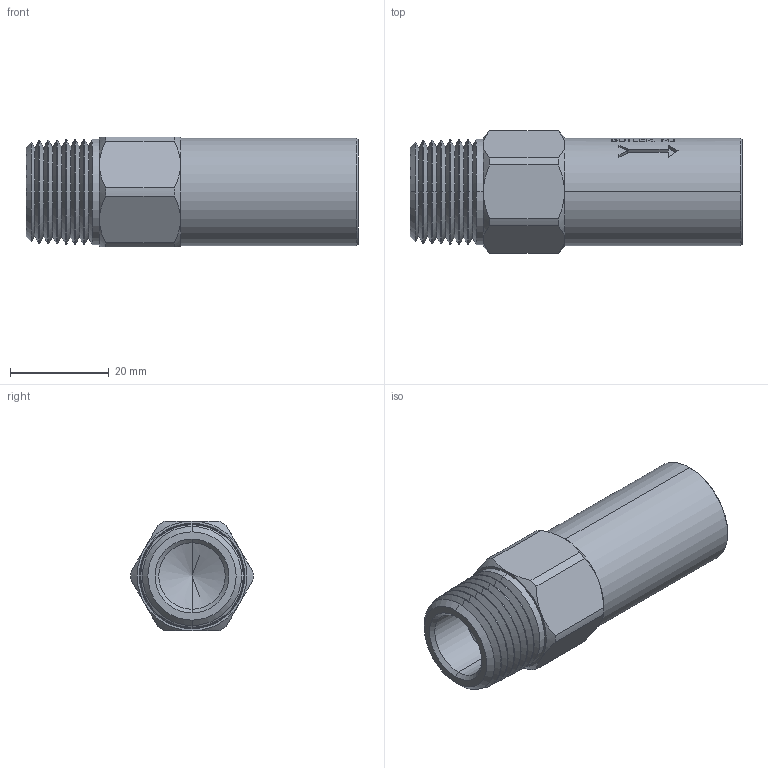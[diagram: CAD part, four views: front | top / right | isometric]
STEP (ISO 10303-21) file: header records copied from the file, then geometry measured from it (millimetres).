
FILE_DESCRIPTION (( 'STEP AP203' ), '1' );
FILE_NAME ('IRV-8.STEP', '2020-08-12T13:42:31', ( '' ), ( '' ), 'SwSTEP 2.0', 'SolidWorks 2020', '' );
FILE_SCHEMA (( 'CONFIG_CONTROL_DESIGN' ));
Length unit declared in the file: inch
Products named in the file (2): IRV-8; Part10^IRV-8
Assembly tree (1 placements, depth 2):
  IRV-8
    Part10^IRV-8
Bounding box: 67.26 x 24.76 x 22.23 mm (x, y, z)
Volume: 20018.9 mm3; surface area: 7257.7 mm2
Topology: 1 solids, 1 shells, 325 faces, 816 edges, 516 vertices
Faces by surface type: plane 140, cone 76, bspline 70, cylinder 39
Entity records: 14471 total; most frequent: CARTESIAN_POINT 7060, ORIENTED_EDGE 1624, DIRECTION 1292, EDGE_CURVE 812, VERTEX_POINT 516, AXIS2_PLACEMENT_3D 483, EDGE_LOOP 352, LINE 326
